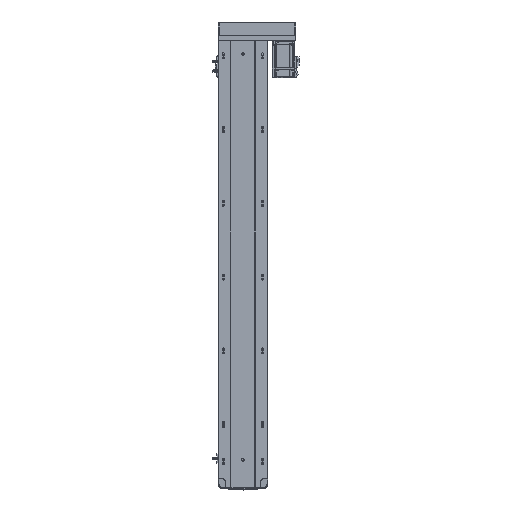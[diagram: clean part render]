
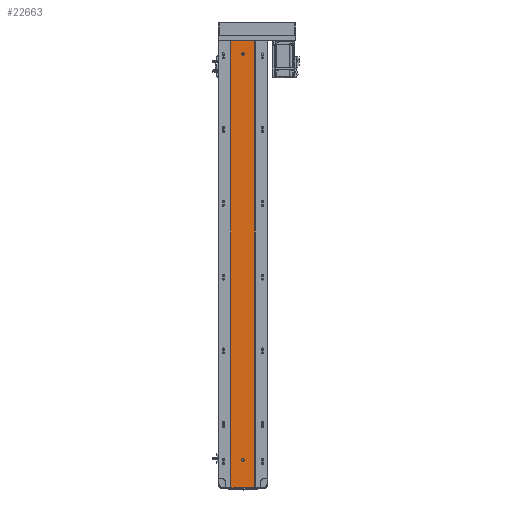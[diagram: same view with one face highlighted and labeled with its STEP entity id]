
A CAD part, top view. The second image highlights one B-rep face of the part: STEP entity #22663.
In plain terms, the highlighted planar face has unit normal (0, 0, 1).
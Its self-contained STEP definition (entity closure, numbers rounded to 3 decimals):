
#1109 = VECTOR ( 'NONE', #53313, 1000. ) ;
#1420 = VECTOR ( 'NONE', #26089, 1000. ) ;
#1713 = CARTESIAN_POINT ( 'NONE',  ( 3., -1135.5, 35.45 ) ) ;
#3386 = ORIENTED_EDGE ( 'NONE', *, *, #36683, .T. ) ;
#3520 = ORIENTED_EDGE ( 'NONE', *, *, #54049, .F. ) ;
#4130 = CARTESIAN_POINT ( 'NONE',  ( 3., -1137.5, 35.45 ) ) ;
#4340 = EDGE_CURVE ( 'NONE', #29627, #36085, #17163, .T. ) ;
#4414 = ORIENTED_EDGE ( 'NONE', *, *, #26603, .F. ) ;
#5715 = CARTESIAN_POINT ( 'NONE',  ( -3., -1135.5, 35.45 ) ) ;
#6696 = LINE ( 'NONE', #62424, #8253 ) ;
#8253 = VECTOR ( 'NONE', #47097, 1000. ) ;
#8671 = DIRECTION ( 'NONE',  ( 0., 0., 1. ) ) ;
#9353 = EDGE_LOOP ( 'NONE', ( #33154, #22037, #4414, #29831 ) ) ;
#9632 = CARTESIAN_POINT ( 'NONE',  ( -32.5, -1211.5, 35.45 ) ) ;
#10035 = CARTESIAN_POINT ( 'NONE',  ( 0., -36.5, 35.45 ) ) ;
#10155 = AXIS2_PLACEMENT_3D ( 'NONE', #10035, #41068, #50960 ) ;
#10619 = CARTESIAN_POINT ( 'NONE',  ( -32.5, -1211.5, 35.45 ) ) ;
#11713 = DIRECTION ( 'NONE',  ( 0., 1., 0. ) ) ;
#12653 = CARTESIAN_POINT ( 'NONE',  ( -32.5, -1211.5, 35.45 ) ) ;
#14014 = FACE_OUTER_BOUND ( 'NONE', #17173, .T. ) ;
#14367 = DIRECTION ( 'NONE',  ( 1., 0., 0. ) ) ;
#14787 = PLANE ( 'NONE',  #54655 ) ;
#14887 = LINE ( 'NONE', #12653, #34981 ) ;
#15166 = CARTESIAN_POINT ( 'NONE',  ( 3., -1135.5, 35.45 ) ) ;
#15574 = EDGE_CURVE ( 'NONE', #62400, #41046, #32290, .T. ) ;
#16353 = FACE_BOUND ( 'NONE', #54392, .T. ) ;
#16459 = CIRCLE ( 'NONE', #18991, 3. ) ;
#16601 = AXIS2_PLACEMENT_3D ( 'NONE', #28986, #8671, #18353 ) ;
#16602 = VERTEX_POINT ( 'NONE', #47808 ) ;
#17099 = EDGE_CURVE ( 'NONE', #41046, #29627, #16459, .T. ) ;
#17163 = LINE ( 'NONE', #57051, #1109 ) ;
#17173 = EDGE_LOOP ( 'NONE', ( #36773, #54433, #3386, #46412 ) ) ;
#18098 = CARTESIAN_POINT ( 'NONE',  ( 3., -36.5, 35.45 ) ) ;
#18353 = DIRECTION ( 'NONE',  ( 1., 0., 0. ) ) ;
#18991 = AXIS2_PLACEMENT_3D ( 'NONE', #30660, #44797, #59661 ) ;
#19435 = VECTOR ( 'NONE', #39982, 1000. ) ;
#20205 = CARTESIAN_POINT ( 'NONE',  ( 32.5, 0., 35.45 ) ) ;
#20222 = VECTOR ( 'NONE', #11713, 1000. ) ;
#21737 = CARTESIAN_POINT ( 'NONE',  ( -3., -1137.5, 35.45 ) ) ;
#22037 = ORIENTED_EDGE ( 'NONE', *, *, #15574, .F. ) ;
#22663 = ADVANCED_FACE ( 'NONE', ( #45645, #16353, #14014 ), #14787, .T. ) ;
#24947 = DIRECTION ( 'NONE',  ( 0., 0., 1. ) ) ;
#26089 = DIRECTION ( 'NONE',  ( 0., 1., 0. ) ) ;
#26440 = AXIS2_PLACEMENT_3D ( 'NONE', #60208, #30785, #50517 ) ;
#26603 = EDGE_CURVE ( 'NONE', #36085, #62400, #39507, .T. ) ;
#28083 = VERTEX_POINT ( 'NONE', #18098 ) ;
#28986 = CARTESIAN_POINT ( 'NONE',  ( 0., -36.5, 35.45 ) ) ;
#29627 = VERTEX_POINT ( 'NONE', #5715 ) ;
#29831 = ORIENTED_EDGE ( 'NONE', *, *, #4340, .F. ) ;
#30660 = CARTESIAN_POINT ( 'NONE',  ( 0., -1135.5, 35.45 ) ) ;
#30785 = DIRECTION ( 'NONE',  ( 0., 0., 1. ) ) ;
#31991 = CIRCLE ( 'NONE', #16601, 3. ) ;
#32290 = LINE ( 'NONE', #1713, #1420 ) ;
#32467 = CIRCLE ( 'NONE', #10155, 3. ) ;
#33154 = ORIENTED_EDGE ( 'NONE', *, *, #17099, .F. ) ;
#34708 = EDGE_CURVE ( 'NONE', #60769, #36597, #14887, .T. ) ;
#34978 = CARTESIAN_POINT ( 'NONE',  ( 32.5, -1211.5, 35.45 ) ) ;
#34981 = VECTOR ( 'NONE', #42597, 1000. ) ;
#35032 = CARTESIAN_POINT ( 'NONE',  ( -32.5, 0., 35.45 ) ) ;
#36085 = VERTEX_POINT ( 'NONE', #21737 ) ;
#36597 = VERTEX_POINT ( 'NONE', #43036 ) ;
#36683 = EDGE_CURVE ( 'NONE', #60769, #51957, #6696, .T. ) ;
#36773 = ORIENTED_EDGE ( 'NONE', *, *, #45431, .F. ) ;
#38637 = EDGE_CURVE ( 'NONE', #51957, #57563, #47173, .T. ) ;
#39507 = CIRCLE ( 'NONE', #26440, 3. ) ;
#39982 = DIRECTION ( 'NONE',  ( 1., 0., 0. ) ) ;
#41046 = VERTEX_POINT ( 'NONE', #15166 ) ;
#41068 = DIRECTION ( 'NONE',  ( 0., 0., 1. ) ) ;
#42597 = DIRECTION ( 'NONE',  ( 0., 1., 0. ) ) ;
#43036 = CARTESIAN_POINT ( 'NONE',  ( -32.5, 0., 35.45 ) ) ;
#44797 = DIRECTION ( 'NONE',  ( 0., 0., 1. ) ) ;
#45431 = EDGE_CURVE ( 'NONE', #36597, #57563, #61898, .T. ) ;
#45645 = FACE_BOUND ( 'NONE', #9353, .T. ) ;
#46172 = CARTESIAN_POINT ( 'NONE',  ( 32.5, -1211.5, 35.45 ) ) ;
#46412 = ORIENTED_EDGE ( 'NONE', *, *, #38637, .T. ) ;
#47097 = DIRECTION ( 'NONE',  ( 1., 0., 0. ) ) ;
#47173 = LINE ( 'NONE', #46172, #20222 ) ;
#47808 = CARTESIAN_POINT ( 'NONE',  ( -3., -36.5, 35.45 ) ) ;
#50517 = DIRECTION ( 'NONE',  ( 1., 0., 0. ) ) ;
#50960 = DIRECTION ( 'NONE',  ( 1., 0., 0. ) ) ;
#51957 = VERTEX_POINT ( 'NONE', #34978 ) ;
#53313 = DIRECTION ( 'NONE',  ( 0., -1., 0. ) ) ;
#54049 = EDGE_CURVE ( 'NONE', #16602, #28083, #31991, .T. ) ;
#54392 = EDGE_LOOP ( 'NONE', ( #55140, #3520 ) ) ;
#54433 = ORIENTED_EDGE ( 'NONE', *, *, #34708, .F. ) ;
#54655 = AXIS2_PLACEMENT_3D ( 'NONE', #9632, #24947, #14367 ) ;
#55140 = ORIENTED_EDGE ( 'NONE', *, *, #59446, .F. ) ;
#57051 = CARTESIAN_POINT ( 'NONE',  ( -3., -1135.5, 35.45 ) ) ;
#57563 = VERTEX_POINT ( 'NONE', #20205 ) ;
#59446 = EDGE_CURVE ( 'NONE', #28083, #16602, #32467, .T. ) ;
#59661 = DIRECTION ( 'NONE',  ( 1., 0., 0. ) ) ;
#60208 = CARTESIAN_POINT ( 'NONE',  ( 0., -1137.5, 35.45 ) ) ;
#60769 = VERTEX_POINT ( 'NONE', #10619 ) ;
#61898 = LINE ( 'NONE', #35032, #19435 ) ;
#62400 = VERTEX_POINT ( 'NONE', #4130 ) ;
#62424 = CARTESIAN_POINT ( 'NONE',  ( -32.5, -1211.5, 35.45 ) ) ;
